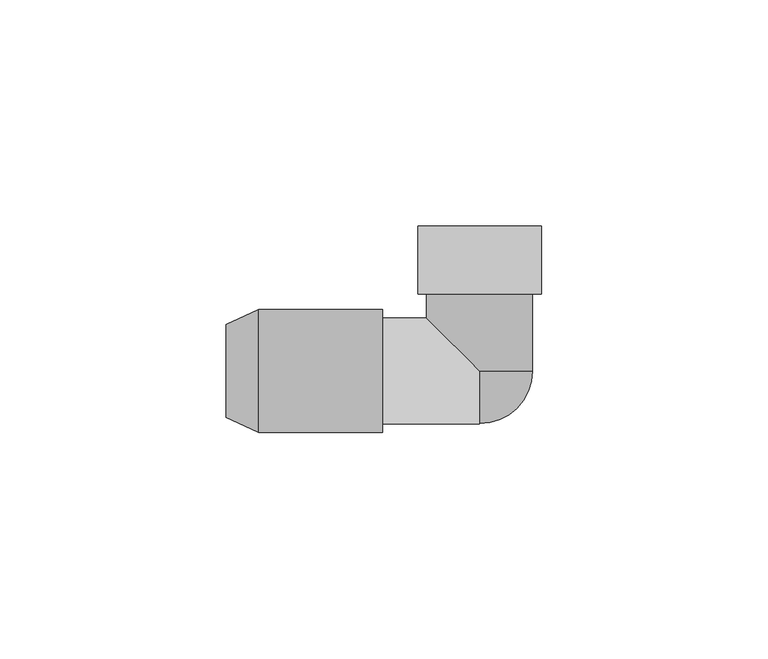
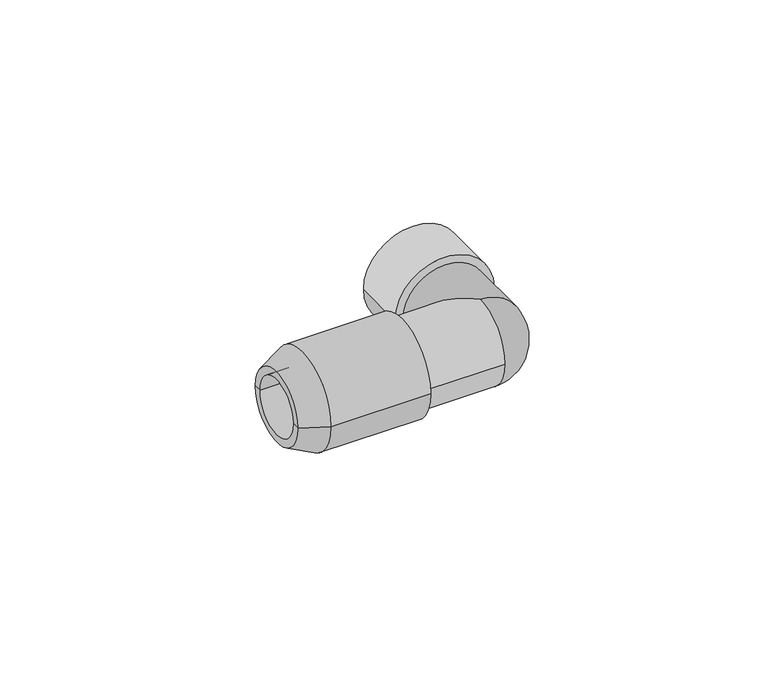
"""IFC4 building model written with IfcOpenShell, lengths in millimetres: pipe fitting geometry."""

from ifc_helpers import new_model, si_unit, point, frame, origin, origin_2d, place, context, project, spatial, polyline, circle_curve, ellipse_curve, trimmed, segment, composite_curve, outline, extrude, source, transform, mapped, element, save
from ifc_brep_helpers import plane_surface, cylinder_surface, revolved_surface, advanced_brep


def pipe_fitting_15463989(model_context):
    return source(origin(), model_context, "Body", "SolidModel", [
        advanced_brep(
        [(-21.5, -13.6, 0.0), (-21.5, 13.6, 0.0), (-21.5, 0.0, 0.0), (-48.8159018, -13.6, 0.0), (-48.8159018, 13.6, 0.0), (-56.0, -10.25, 0.0), (-56.0, 10.25, 0.0), (-31.0, -8.0, 0.0), (-31.0, 8.0, 0.0), (-56.0, 8.0, 0.0), (-56.0, -8.0, 0.0), (-31.0, 0.0, 0.0)],
        [
            (0, 1, circle_curve(frame((-21.5, 0.0, 0.0), z_axis=(1.0, 0.0, 0.0), x_axis=(0.0, 1.0, 0.0)), 13.6)),
            (1, 2),
            (2, 0),
            (1, 0, circle_curve(frame((-21.5, 0.0, 0.0), z_axis=(1.0, 0.0, 0.0), x_axis=(0.0, 1.0, 0.0)), 13.6)),
            (3, 4, circle_curve(frame((-48.8159018, 0.0, 0.0), z_axis=(1.0, 0.0, 0.0), x_axis=(0.0, 1.0, 0.0)), 13.6)),
            (4, 1),
            (0, 3),
            (4, 3, circle_curve(frame((-48.8159018, 0.0, 0.0), z_axis=(1.0, 0.0, 0.0), x_axis=(0.0, 1.0, 0.0)), 13.6)),
            (5, 6, circle_curve(frame((-56.0, 0.0, 0.0), z_axis=(1.0, 0.0, 0.0), x_axis=(0.0, 1.0, 0.0)), 10.25)),
            (6, 4),
            (3, 5),
            (6, 5, circle_curve(frame((-56.0, 0.0, 0.0), z_axis=(1.0, 0.0, 0.0), x_axis=(0.0, 1.0, 0.0)), 10.25)),
            (7, 8, circle_curve(frame((-31.0, 0.0, 0.0), z_axis=(1.0, 0.0, 0.0), x_axis=(0.0, 1.0, 0.0)), 8.0)),
            (8, 9),
            (9, 10, circle_curve(frame((-56.0, 0.0, 0.0), z_axis=(-1.0, 0.0, 0.0), x_axis=(0.0, 1.0, 0.0)), 8.0)),
            (10, 7),
            (8, 7, circle_curve(frame((-31.0, 0.0, 0.0), z_axis=(1.0, 0.0, 0.0), x_axis=(0.0, 1.0, 0.0)), 8.0)),
            (10, 9, circle_curve(frame((-56.0, 0.0, 0.0), z_axis=(-1.0, 0.0, 0.0), x_axis=(0.0, 1.0, 0.0)), 8.0)),
            (11, 8),
            (7, 11),
            (9, 6),
            (5, 10),
        ],
        [
            plane_surface(frame((-21.5, 0.0, 0.0), z_axis=(1.0, 0.0, 0.0), x_axis=(0.0, 1.0, 0.0))),
            cylinder_surface(frame((-66.0, 0.0, 0.0), z_axis=(-1.0, 0.0, 0.0), x_axis=(0.0, 1.0, 0.0)), 13.6),
            revolved_surface(polyline([(-48.8159018, 13.6, 0.0), (-56.0, 10.25, 0.0)]), (-66.0, 0.0, 0.0), (-1.0, 0.0, 0.0)),
            revolved_surface(polyline([(-56.0, 8.0, 0.0), (-31.0, 8.0, 0.0)]), (-66.0, 0.0, 0.0), (-1.0, 0.0, 0.0)),
            plane_surface(frame((-31.0, 0.0, 0.0), z_axis=(-1.0, 0.0, 0.0), x_axis=(0.0, 1.0, 0.0))),
            plane_surface(frame((-56.0, 0.0, 0.0), z_axis=(-1.0, 0.0, 0.0), x_axis=(0.0, 1.0, 0.0))),
        ],
        [
            (0, [[1, 2, 3]]),
            (0, [[4, -3, -2]]),
            (1, [[5, 6, -1, 7]]),
            (1, [[8, -7, -4, -6]]),
            (2, [[9, 10, -5, 11]]),
            (2, [[12, -11, -8, -10]]),
            (3, [[13, 14, 15, 16]]),
            (3, [[17, -16, 18, -14]]),
            (4, [[19, -13, 20]]),
            (4, [[-20, -17, -19]]),
            (5, [[-15, 21, -9, 22]]),
            (5, [[-18, -22, -12, -21]]),
        ],
    ),
        extrude(outline(composite_curve([segment(trimmed(circle_curve(origin_2d(), 13.65), [point((0.0, 13.65))], [point((0.0, -13.65))], False, "CARTESIAN"), True, "CONTINUOUS"), segment(trimmed(circle_curve(origin_2d(), 13.65), [point((0.0, -13.65))], [point((0.0, 13.65))], False, "CARTESIAN"), True, "CONTINUOUS")], self_intersect=False), holes=[composite_curve([segment(trimmed(circle_curve(origin_2d(), 10.65), [point((0.0, 10.65))], [point((0.0, -10.65))], True, "CARTESIAN"), True, "CONTINUOUS"), segment(trimmed(circle_curve(origin_2d(), 10.65), [point((0.0, -10.65))], [point((0.0, 10.65))], True, "CARTESIAN"), True, "CONTINUOUS")], self_intersect=False)]), frame((0.0, 17.0, 0.0), z_axis=(0.0, 1.0, 0.0), x_axis=(0.0, 0.0, 1.0)), (0.0, 0.0, 1.0), 15.0),
        advanced_brep(
        [(-11.715, 17.0, 0.0), (11.715, 17.0, 0.0), (-11.715, 11.715, 0.0), (0.0, 0.0, 11.715), (11.715, 0.0, 0.0), (0.0, 0.0, -11.715), (-21.5, 11.715, 0.0), (-21.5, -11.715, 0.0), (0.0, -11.715, 0.0)],
        [
            (0, 1, circle_curve(frame((0.0, 17.0, 0.0), z_axis=(0.0, 1.0, 0.0), x_axis=(1.0, 0.0, 0.0)), 11.715)),
            (1, 0, circle_curve(frame((0.0, 17.0, 0.0), z_axis=(0.0, 1.0, 0.0), x_axis=(1.0, 0.0, 0.0)), 11.715)),
            (0, 2),
            (2, 3, ellipse_curve(frame((0.0, 0.0, 0.0), z_axis=(0.7071067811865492, 0.7071067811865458, 0.0), x_axis=(-0.7071067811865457, 0.7071067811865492, 0.0)), 16.5675119, 11.715)),
            (3, 4, circle_curve(frame((0.0, 0.0, 0.0), z_axis=(0.0, 1.0, 0.0), x_axis=(1.0, 0.0, 0.0)), 11.715)),
            (4, 1),
            (4, 5, circle_curve(frame((0.0, 0.0, 0.0), z_axis=(0.0, 1.0, 0.0), x_axis=(1.0, 0.0, 0.0)), 11.715)),
            (5, 2, ellipse_curve(frame((0.0, 0.0, 0.0), z_axis=(0.7071067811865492, 0.7071067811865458, 0.0), x_axis=(-0.7071067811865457, 0.7071067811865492, 0.0)), 16.5675119, 11.715)),
            (6, 7, circle_curve(frame((-21.5, 0.0, 0.0), z_axis=(-1.0, 0.0, 0.0), x_axis=(0.0, -1.0, 0.0)), 11.715)),
            (7, 6, circle_curve(frame((-21.5, 0.0, 0.0), z_axis=(-1.0, 0.0, 0.0), x_axis=(0.0, -1.0, 0.0)), 11.715)),
            (7, 8),
            (8, 3, circle_curve(frame((0.0, 0.0, 0.0), z_axis=(-1.0, 0.0, 0.0), x_axis=(0.0, -1.0, 0.0)), 11.715)),
            (2, 6),
            (5, 8, circle_curve(frame((0.0, 0.0, 0.0), z_axis=(-1.0, 0.0, 0.0), x_axis=(0.0, -1.0, 0.0)), 11.715)),
        ],
        [
            plane_surface(frame((0.0, 17.0, 0.0), z_axis=(0.0, 1.0, 0.0), x_axis=(0.0, 0.0, 1.0))),
            cylinder_surface(frame((0.0, 17.0, 0.0), z_axis=(0.0, 1.0, 0.0), x_axis=(1.0, 0.0, 0.0)), 11.715),
            plane_surface(frame((-21.5, 0.0, 0.0), z_axis=(-1.0, 0.0, 0.0), x_axis=(0.0, 0.0, 1.0))),
            cylinder_surface(frame((0.0, 0.0, 0.0), z_axis=(1.0, 0.0, 0.0), x_axis=(0.0, -1.0, 0.0)), 11.715),
            revolved_surface(trimmed(ellipse_curve(frame((0.0, 0.0, 0.0), z_axis=(0.0, -1.0, 0.0), x_axis=(1.0, 0.0, 0.0)), 11.715, 11.715), [point((0.0, 0.0, -11.715))], [point((0.0, 0.0, 11.715))], True, "CARTESIAN"), (0.0, 0.0, 33.4230973), (0.0, 0.0, 1.0)),
        ],
        [
            (0, [[1, 2]]),
            (1, [[-1, 3, 4, 5, 6]]),
            (1, [[-2, -6, 7, 8, -3]]),
            (2, [[9, 10]]),
            (3, [[-10, 11, 12, -4, 13]]),
            (3, [[-9, -13, -8, 14, -11]]),
            (4, [[-5, -12, -14, -7]]),
        ],
    ),
    ])


if __name__ == "__main__":
    model = new_model("IFC4")
    model_context = context("Model", 3, world=origin())
    ifc_project = project(units=[si_unit("LENGTHUNIT", "METRE", prefix="MILLI")], contexts=[model_context])
    site = spatial("IfcSite", under=ifc_project)
    building = spatial("IfcBuilding", under=site)
    placement = place(None, origin())
    pipe_fitting_shape = pipe_fitting_15463989(model_context)
    element("IfcPipeFitting", 1, ObjectType="NLRS_50_PIF_UN_PushFit overgangsbocht 90° met binnendraad_geb : DN12-20-Rp3/4\" / d16-25-Rp3/4\"", at=placement, inside=building, context=model_context, shape_type="MappedRepresentation", body=[
        mapped(pipe_fitting_shape, transform((0.0, 0.0, 0.0), x_axis=(1.0, 0.0, 0.0), y_axis=(0.0, 1.0, 0.0), z_axis=(0.0, 0.0, 1.0))),
    ])
    save(model, "model.ifc")
